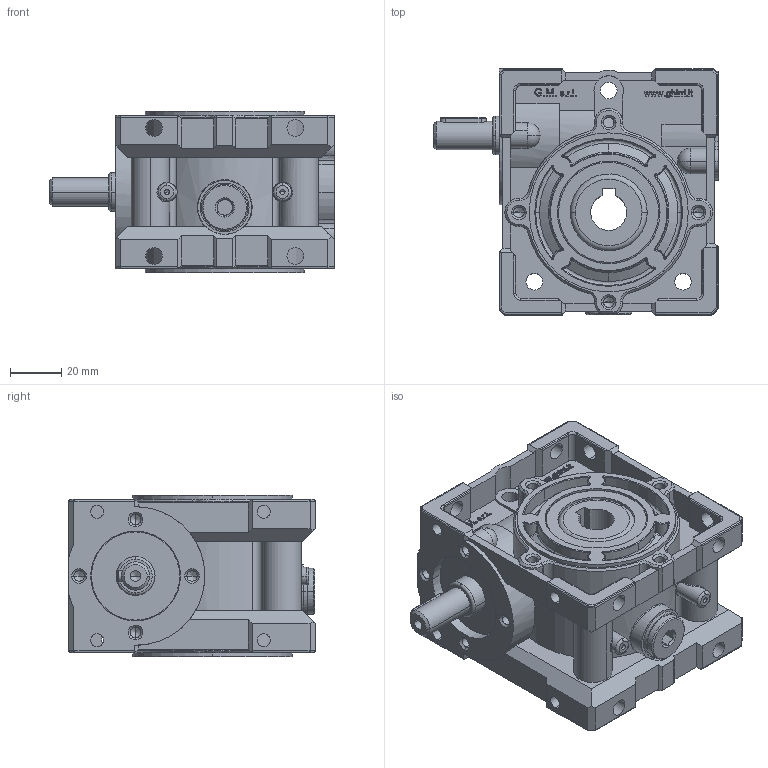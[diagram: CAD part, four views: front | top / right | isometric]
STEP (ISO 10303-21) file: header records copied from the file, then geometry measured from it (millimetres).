
FILE_DESCRIPTION((''),'2;1');
FILE_NAME('\\Gmtech3\usr\3D\MV_V\30\STP\V30.stp','2005-06-10T11:01:31',('tech2'),(''),'Autodesk Inventor 9','Autodesk Inventor 9','');
FILE_SCHEMA(('AUTOMOTIVE_DESIGN { 1 0 10303 214 1 1 1 1 }'));
Length unit declared in the file: millimetre
Products named in the file (11): V30; 4003001-A0; 4003008-A0; Capp-28-7; VITE_MV30; UNI-ISO 6194-1 (4) Tipo4 15 x  35 x  7; Paraolio-30-40-7; Paraolio-30-55-7; Guarnizione 1_4 GAS; Tappo 1_4 GAS; UNI 6604  A A 4 x  4 x  18
Assembly tree (10 placements, depth 2):
  V30
    4003001-A0
    4003008-A0
    Capp-28-7
    VITE_MV30
    UNI-ISO 6194-1 (4) Tipo4 15 x  35 x  7
    Paraolio-30-40-7
    Paraolio-30-55-7
    Guarnizione 1_4 GAS
    Tappo 1_4 GAS
    UNI 6604  A A 4 x  4 x  18
Bounding box: 111 x 96 x 63 mm (x, y, z)
Volume: 323171.8 mm3; surface area: 102953.2 mm2
Topology: 10 solids, 12 shells, 1531 faces, 3986 edges, 2522 vertices
Faces by surface type: plane 521, bspline 416, cylinder 355, cone 171, torus 54, sphere 14
Entity records: 53034 total; most frequent: CARTESIAN_POINT 16683, ORIENTED_EDGE 7864, DIRECTION 6921, EDGE_CURVE 3932, VERTEX_POINT 2520, AXIS2_PLACEMENT_3D 2314, VECTOR 2293, LINE 2293
